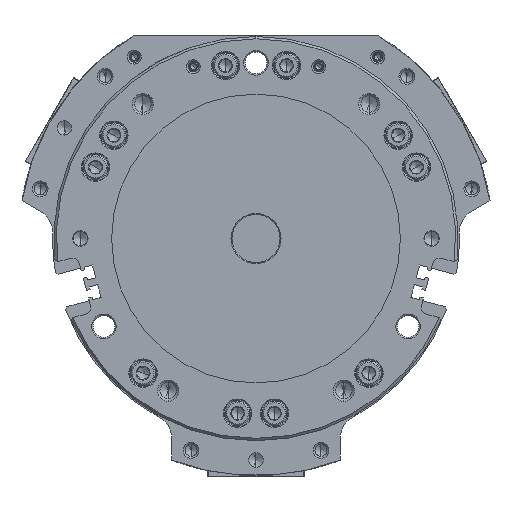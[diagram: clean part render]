
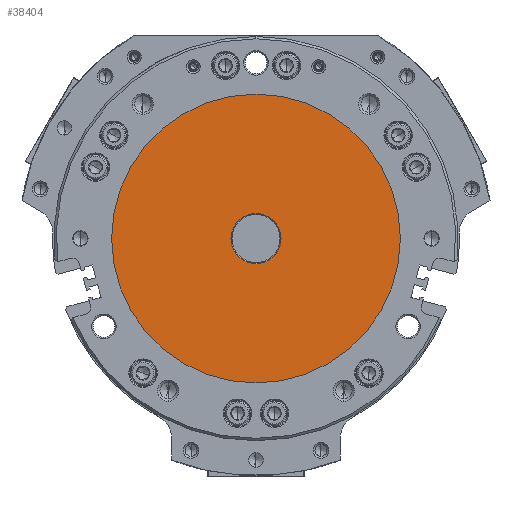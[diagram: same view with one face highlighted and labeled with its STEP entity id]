
A CAD part, front view. The second image highlights one B-rep face of the part: STEP entity #38404.
In plain terms, the highlighted planar face has unit normal (0, -1, 0).
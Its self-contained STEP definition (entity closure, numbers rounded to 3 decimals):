
#3759 = CIRCLE ( 'NONE', #39340, 60. ) ;
#3793 = EDGE_CURVE ( 'NONE', #52206, #14070, #40126, .T. ) ;
#5642 = CARTESIAN_POINT ( 'NONE',  ( 0., 0.3, 0. ) ) ;
#8207 = DIRECTION ( 'NONE',  ( 0., 1., 0. ) ) ;
#9225 = VERTEX_POINT ( 'NONE', #31960 ) ;
#12252 = ORIENTED_EDGE ( 'NONE', *, *, #33746, .T. ) ;
#12540 = DIRECTION ( 'NONE',  ( 0., 0., 1. ) ) ;
#13029 = CARTESIAN_POINT ( 'NONE',  ( 0., 0.3, 10.4 ) ) ;
#14070 = VERTEX_POINT ( 'NONE', #17828 ) ;
#14458 = DIRECTION ( 'NONE',  ( 0., 1., 0. ) ) ;
#14532 = PLANE ( 'NONE',  #33115 ) ;
#14917 = EDGE_CURVE ( 'NONE', #9225, #50217, #41685, .T. ) ;
#16721 = AXIS2_PLACEMENT_3D ( 'NONE', #26283, #52708, #12540 ) ;
#17609 = EDGE_LOOP ( 'NONE', ( #12252, #24305 ) ) ;
#17828 = CARTESIAN_POINT ( 'NONE',  ( 0., 0.3, -10.4 ) ) ;
#18051 = FACE_OUTER_BOUND ( 'NONE', #53332, .T. ) ;
#22945 = DIRECTION ( 'NONE',  ( 0., 0., 1. ) ) ;
#24305 = ORIENTED_EDGE ( 'NONE', *, *, #3793, .T. ) ;
#26283 = CARTESIAN_POINT ( 'NONE',  ( 0., 0.3, 0. ) ) ;
#27039 = DIRECTION ( 'NONE',  ( 0., 1., 0. ) ) ;
#27262 = ORIENTED_EDGE ( 'NONE', *, *, #44847, .F. ) ;
#27961 = FACE_BOUND ( 'NONE', #17609, .T. ) ;
#29779 = AXIS2_PLACEMENT_3D ( 'NONE', #43974, #8207, #48959 ) ;
#31218 = CARTESIAN_POINT ( 'NONE',  ( 0., 0.3, 0. ) ) ;
#31960 = CARTESIAN_POINT ( 'NONE',  ( 0., 0.3, -60. ) ) ;
#32386 = DIRECTION ( 'NONE',  ( 0., -1., 0. ) ) ;
#32862 = CARTESIAN_POINT ( 'NONE',  ( 0., 0.3, 60. ) ) ;
#33115 = AXIS2_PLACEMENT_3D ( 'NONE', #31218, #32386, #53539 ) ;
#33746 = EDGE_CURVE ( 'NONE', #14070, #52206, #44793, .T. ) ;
#38404 = ADVANCED_FACE ( 'NONE', ( #27961, #18051 ), #14532, .T. ) ;
#39340 = AXIS2_PLACEMENT_3D ( 'NONE', #54042, #27039, #45831 ) ;
#39813 = AXIS2_PLACEMENT_3D ( 'NONE', #5642, #14458, #22945 ) ;
#40126 = CIRCLE ( 'NONE', #29779, 10.4 ) ;
#41685 = CIRCLE ( 'NONE', #39813, 60. ) ;
#43974 = CARTESIAN_POINT ( 'NONE',  ( 0., 0.3, 0. ) ) ;
#44793 = CIRCLE ( 'NONE', #16721, 10.4 ) ;
#44847 = EDGE_CURVE ( 'NONE', #50217, #9225, #3759, .T. ) ;
#45831 = DIRECTION ( 'NONE',  ( 0., 0., 1. ) ) ;
#48959 = DIRECTION ( 'NONE',  ( 0., 0., 1. ) ) ;
#50217 = VERTEX_POINT ( 'NONE', #32862 ) ;
#51599 = ORIENTED_EDGE ( 'NONE', *, *, #14917, .F. ) ;
#52206 = VERTEX_POINT ( 'NONE', #13029 ) ;
#52708 = DIRECTION ( 'NONE',  ( 0., 1., 0. ) ) ;
#53332 = EDGE_LOOP ( 'NONE', ( #27262, #51599 ) ) ;
#53539 = DIRECTION ( 'NONE',  ( 0., 0., -1. ) ) ;
#54042 = CARTESIAN_POINT ( 'NONE',  ( 0., 0.3, 0. ) ) ;
